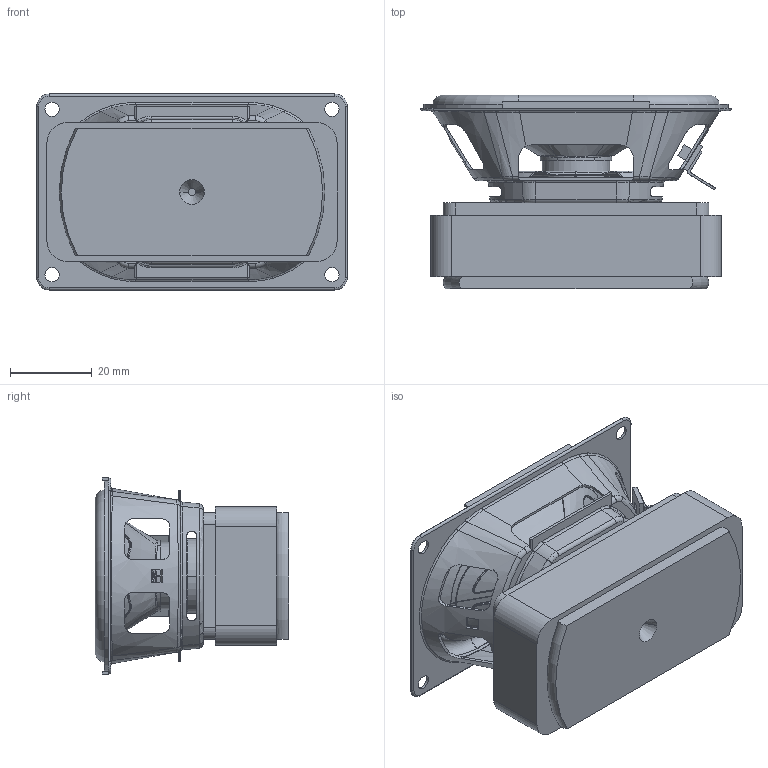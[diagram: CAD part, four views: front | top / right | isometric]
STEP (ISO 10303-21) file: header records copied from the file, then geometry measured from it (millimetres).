
FILE_DESCRIPTION((''),'2;1');
FILE_NAME('1034_ASM','2023-09-25T09:46:36',('54257'),(''),'CREO PARAMETRIC BY PTC INC, 2020053','CREO PARAMETRIC BY PTC INC, 2020053','');
FILE_SCHEMA(('CONFIG_CONTROL_DESIGN','SHAPE_APPEARANCE_LAYERS_GROUPS'));
Length unit declared in the file: millimetre
Products named in the file (10): BY; HM; HP; HF; PAPER_CONE; DUST_CAP; VOICE_COIL_02; 1314-TERMIAL; DMP-48X35; 1034_ASM
Assembly tree (9 placements, depth 2):
  1034_ASM
    BY
    HM
    HP
    HF
    PAPER_CONE
    DUST_CAP
    VOICE_COIL_02
    1314-TERMIAL
    DMP-48X35
Bounding box: 76 x 47.39 x 48 mm (x, y, z)
Volume: 49018 mm3; surface area: 43397 mm2
Topology: 9 solids, 9 shells, 664 faces, 1739 edges, 1095 vertices
Faces by surface type: bspline 226, plane 192, cylinder 142, torus 53, cone 22, extrusion 19, revolution 6, sphere 4
Entity records: 40200 total; most frequent: CARTESIAN_POINT 17093, ORIENTED_EDGE 3470, DIRECTION 2257, PRESENTATION_STYLE_ASSIGNMENT 2169, STYLED_ITEM 2169, EDGE_CURVE 1735, CURVE_STYLE 1714, VERTEX_POINT 1095
